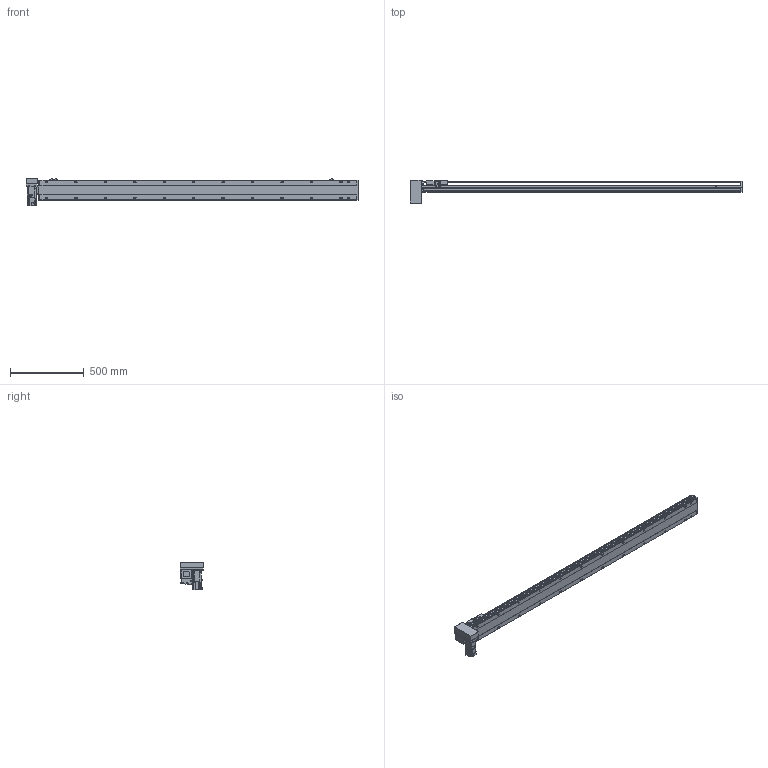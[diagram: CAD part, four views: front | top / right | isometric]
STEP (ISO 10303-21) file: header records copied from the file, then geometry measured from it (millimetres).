
FILE_DESCRIPTION( ( 'STEP AP214' ), '1' );
FILE_NAME( 'x:/temp/worker_1/temp/exporttempdir_5824_86_We4Nz/format_0/PBS140-P40-S1900-RD-T40-C1-N(0).stp', '2022-06-07T05:36:12', ( 'License CC BY-ND 4.0' ), ( 'CADENAS' ), ' ', 'PARTsolutions', ' ' );
FILE_SCHEMA( ( 'AUTOMOTIVE_DESIGN { 1 0 10303 214 1 1 1 1 }' ) );
Length unit declared in the file: millimetre
Products named in the file (7): PBS140-P40-S1900-RD-T40-C1-N(0); _PBS140-S1900()_body; _PBS140T-RD_motors; _T40-p1; _PBS140_sliser; _PBS140_plant; _PBS140_sensor
Assembly tree (8 placements, depth 2):
  PBS140-P40-S1900-RD-T40-C1-N(0)
    _PBS140-S1900()_body
    _PBS140T-RD_motors
    _T40-p1
    _PBS140_sliser
    _PBS140_plant
    _PBS140_sensor  x3
Bounding box: 2254 x 162 x 189.7 mm (x, y, z)
Volume: 10283862.7 mm3; surface area: 1764557.4 mm2
Topology: 8 solids, 8 shells, 1139 faces, 2996 edges, 1957 vertices
Faces by surface type: plane 716, cylinder 363, cone 50, sphere 8, torus 2
Full cylindrical faces by diameter (mm): 3.242 x4, 4 x2, 4.134 x4, 4.4 x8, 4.5 x2, 4.8 x4, 4.917 x32, 5.5 x7, 6 x2, 7 x26, 7.5 x8, 8 x12, 8.5 x4, 10.5 x24, 14 x1, 30 x2, 50 x2
Entity records: 41857 total; most frequent: CARTESIAN_POINT 6923, DIRECTION 5477, ORIENTED_EDGE 5152, EDGE_CURVE 2576, AXIS2_PLACEMENT_3D 1927, VERTEX_POINT 1797, LINE 1623, VECTOR 1623
